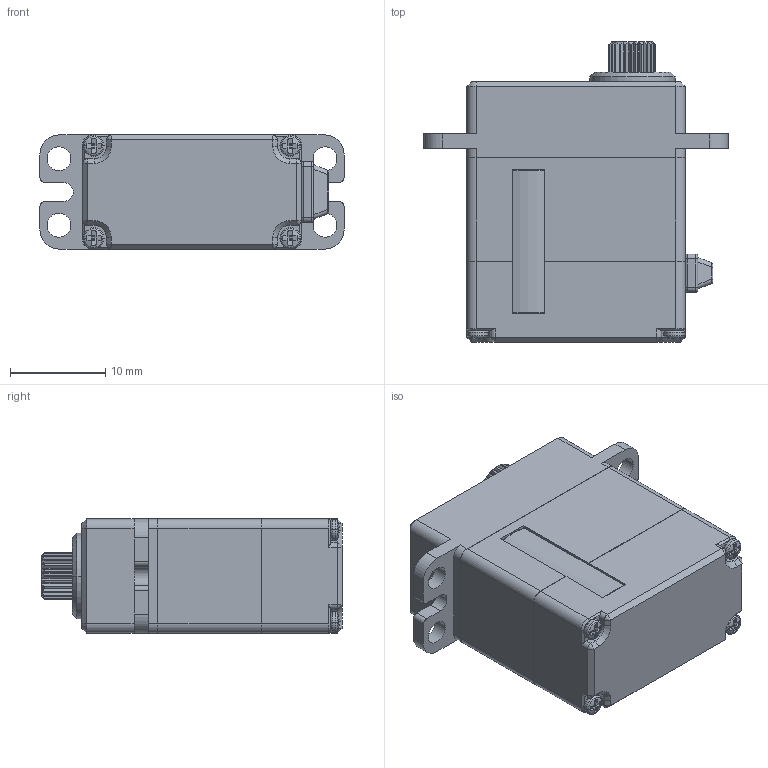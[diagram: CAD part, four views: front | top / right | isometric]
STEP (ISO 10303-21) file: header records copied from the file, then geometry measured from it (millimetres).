
FILE_DESCRIPTION((''),'2;1');
FILE_NAME('DDJ-9GCNC-A20','2024-12-25T',('扂'),(''),'PRO/ENGINEER BY PARAMETRIC TECHNOLOGY CORPORATION, 2010280','PRO/ENGINEER BY PARAMETRIC TECHNOLOGY CORPORATION, 2010280','');
FILE_SCHEMA(('CONFIG_CONTROL_DESIGN'));
Length unit declared in the file: millimetre
Products named in the file (1): DDJ-9GCNC-A20
Bounding box: 32 x 31.6 x 12 mm (x, y, z)
Volume: 7722.2 mm3; surface area: 3186.7 mm2
Topology: 1 solids, 1 shells, 578 faces, 1548 edges, 959 vertices
Faces by surface type: plane 267, cylinder 213, cone 51, torus 26, bspline 13, sphere 8
Entity records: 20663 total; most frequent: CARTESIAN_POINT 6471, ORIENTED_EDGE 3060, DIRECTION 2859, EDGE_CURVE 1530, AXIS2_PLACEMENT_3D 1001, VERTEX_POINT 959, VECTOR 857, LINE 857
